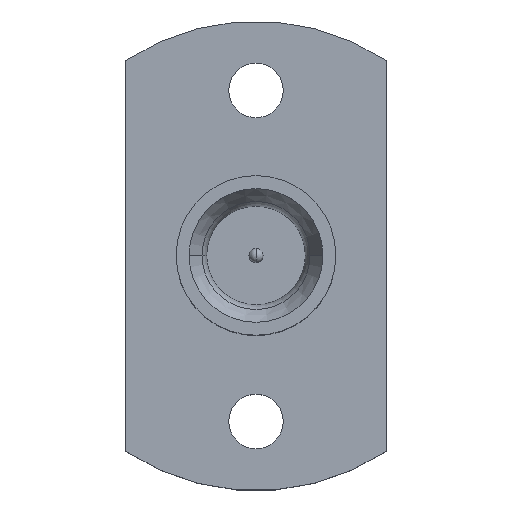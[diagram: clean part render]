
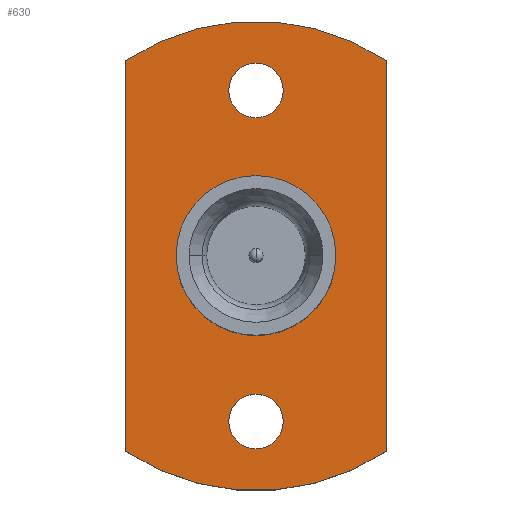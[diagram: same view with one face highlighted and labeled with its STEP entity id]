
A CAD part, top view. The second image highlights one B-rep face of the part: STEP entity #630.
In plain terms, the highlighted planar face has unit normal (0, 0, 1).
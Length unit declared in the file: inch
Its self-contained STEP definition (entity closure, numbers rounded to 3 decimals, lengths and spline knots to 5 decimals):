
#4 = CARTESIAN_POINT ( 'NONE',  ( 0.068, 0., -0.238 ) ) ;
#21 = EDGE_CURVE ( 'NONE', #1157, #350, #135, .T. ) ;
#34 = ORIENTED_EDGE ( 'NONE', *, *, #1499, .T. ) ;
#47 = FACE_BOUND ( 'NONE', #1756, .T. ) ;
#58 = CARTESIAN_POINT ( 'NONE',  ( 0., 0.141, -0.238 ) ) ;
#98 = AXIS2_PLACEMENT_3D ( 'NONE', #1352, #479, #1645 ) ;
#126 = CARTESIAN_POINT ( 'NONE',  ( -0.111, 0.16637, -0.238 ) ) ;
#135 = CIRCLE ( 'NONE', #142, 0.02325 ) ;
#142 = AXIS2_PLACEMENT_3D ( 'NONE', #342, #1360, #488 ) ;
#147 = EDGE_CURVE ( 'NONE', #1280, #564, #1543, .T. ) ;
#181 = VERTEX_POINT ( 'NONE', #198 ) ;
#198 = CARTESIAN_POINT ( 'NONE',  ( -0.068, 0., -0.238 ) ) ;
#203 = VECTOR ( 'NONE', #1866, 39.37008 ) ;
#208 = DIRECTION ( 'NONE',  ( -1., 0., 0. ) ) ;
#267 = CARTESIAN_POINT ( 'NONE',  ( 0., -0.141, -0.238 ) ) ;
#268 = PLANE ( 'NONE',  #1169 ) ;
#275 = DIRECTION ( 'NONE',  ( 0., 0., -1. ) ) ;
#278 = CARTESIAN_POINT ( 'NONE',  ( 0., 0., -0.238 ) ) ;
#335 = VERTEX_POINT ( 'NONE', #960 ) ;
#340 = ORIENTED_EDGE ( 'NONE', *, *, #147, .T. ) ;
#342 = CARTESIAN_POINT ( 'NONE',  ( 0., -0.141, -0.238 ) ) ;
#345 = CARTESIAN_POINT ( 'NONE',  ( 0.111, 0.16637, -0.238 ) ) ;
#350 = VERTEX_POINT ( 'NONE', #809 ) ;
#361 = CIRCLE ( 'NONE', #534, 0.068 ) ;
#377 = LINE ( 'NONE', #1723, #1881 ) ;
#382 = ORIENTED_EDGE ( 'NONE', *, *, #1780, .T. ) ;
#413 = DIRECTION ( 'NONE',  ( -1., 0., 0. ) ) ;
#419 = AXIS2_PLACEMENT_3D ( 'NONE', #1464, #1165, #1172 ) ;
#430 = DIRECTION ( 'NONE',  ( -1., 0., 0. ) ) ;
#457 = AXIS2_PLACEMENT_3D ( 'NONE', #790, #1795, #933 ) ;
#479 = DIRECTION ( 'NONE',  ( 0., 0., -1. ) ) ;
#488 = DIRECTION ( 'NONE',  ( -1., 0., 0. ) ) ;
#534 = AXIS2_PLACEMENT_3D ( 'NONE', #870, #1875, #1006 ) ;
#546 = EDGE_CURVE ( 'NONE', #1612, #1857, #1272, .T. ) ;
#552 = ORIENTED_EDGE ( 'NONE', *, *, #546, .F. ) ;
#564 = VERTEX_POINT ( 'NONE', #688 ) ;
#630 = ADVANCED_FACE ( 'NONE', ( #829, #47, #1604, #1564 ), #268, .F. ) ;
#663 = CIRCLE ( 'NONE', #457, 0.2 ) ;
#669 = CARTESIAN_POINT ( 'NONE',  ( -0.111, -0.16637, -0.238 ) ) ;
#688 = CARTESIAN_POINT ( 'NONE',  ( -0.02325, 0.141, -0.238 ) ) ;
#749 = VERTEX_POINT ( 'NONE', #4 ) ;
#790 = CARTESIAN_POINT ( 'NONE',  ( 0., 0., -0.238 ) ) ;
#804 = CARTESIAN_POINT ( 'NONE',  ( 0.02325, -0.141, -0.238 ) ) ;
#809 = CARTESIAN_POINT ( 'NONE',  ( -0.02325, -0.141, -0.238 ) ) ;
#821 = AXIS2_PLACEMENT_3D ( 'NONE', #278, #1300, #430 ) ;
#829 = FACE_BOUND ( 'NONE', #1349, .T. ) ;
#858 = DIRECTION ( 'NONE',  ( 0., -1., 0. ) ) ;
#870 = CARTESIAN_POINT ( 'NONE',  ( 0., 0., -0.238 ) ) ;
#911 = EDGE_CURVE ( 'NONE', #335, #979, #663, .T. ) ;
#933 = DIRECTION ( 'NONE',  ( -1., 0., 0. ) ) ;
#960 = CARTESIAN_POINT ( 'NONE',  ( -0.111, 0.16637, -0.238 ) ) ;
#979 = VERTEX_POINT ( 'NONE', #345 ) ;
#1006 = DIRECTION ( 'NONE',  ( -1., 0., 0. ) ) ;
#1007 = CARTESIAN_POINT ( 'NONE',  ( 0.111, -0.16637, -0.238 ) ) ;
#1045 = ORIENTED_EDGE ( 'NONE', *, *, #1685, .T. ) ;
#1090 = DIRECTION ( 'NONE',  ( 0., 0., -1. ) ) ;
#1106 = ORIENTED_EDGE ( 'NONE', *, *, #1625, .F. ) ;
#1148 = CARTESIAN_POINT ( 'NONE',  ( 0., 0., -0.238 ) ) ;
#1157 = VERTEX_POINT ( 'NONE', #804 ) ;
#1165 = DIRECTION ( 'NONE',  ( 0., 0., -1. ) ) ;
#1169 = AXIS2_PLACEMENT_3D ( 'NONE', #1148, #275, #1296 ) ;
#1172 = DIRECTION ( 'NONE',  ( -1., 0., 0. ) ) ;
#1195 = ORIENTED_EDGE ( 'NONE', *, *, #911, .F. ) ;
#1198 = EDGE_CURVE ( 'NONE', #1857, #335, #1319, .T. ) ;
#1272 = CIRCLE ( 'NONE', #419, 0.2 ) ;
#1280 = VERTEX_POINT ( 'NONE', #1609 ) ;
#1285 = DIRECTION ( 'NONE',  ( 0., 0., -1. ) ) ;
#1296 = DIRECTION ( 'NONE',  ( -1., 0., 0. ) ) ;
#1300 = DIRECTION ( 'NONE',  ( 0., 0., -1. ) ) ;
#1319 = LINE ( 'NONE', #126, #203 ) ;
#1349 = EDGE_LOOP ( 'NONE', ( #34, #1628 ) ) ;
#1352 = CARTESIAN_POINT ( 'NONE',  ( 0., 0.141, -0.238 ) ) ;
#1360 = DIRECTION ( 'NONE',  ( 0., 0., -1. ) ) ;
#1464 = CARTESIAN_POINT ( 'NONE',  ( 0., 0., -0.238 ) ) ;
#1483 = CIRCLE ( 'NONE', #821, 0.068 ) ;
#1499 = EDGE_CURVE ( 'NONE', #350, #1157, #1769, .T. ) ;
#1509 = ORIENTED_EDGE ( 'NONE', *, *, #1709, .T. ) ;
#1543 = CIRCLE ( 'NONE', #98, 0.02325 ) ;
#1547 = AXIS2_PLACEMENT_3D ( 'NONE', #267, #1285, #413 ) ;
#1564 = FACE_OUTER_BOUND ( 'NONE', #1611, .T. ) ;
#1604 = FACE_BOUND ( 'NONE', #1673, .T. ) ;
#1609 = CARTESIAN_POINT ( 'NONE',  ( 0.02325, 0.141, -0.238 ) ) ;
#1611 = EDGE_LOOP ( 'NONE', ( #552, #1106, #1195, #1682 ) ) ;
#1612 = VERTEX_POINT ( 'NONE', #1007 ) ;
#1625 = EDGE_CURVE ( 'NONE', #979, #1612, #377, .T. ) ;
#1628 = ORIENTED_EDGE ( 'NONE', *, *, #21, .T. ) ;
#1645 = DIRECTION ( 'NONE',  ( -1., 0., 0. ) ) ;
#1673 = EDGE_LOOP ( 'NONE', ( #1509, #1045 ) ) ;
#1682 = ORIENTED_EDGE ( 'NONE', *, *, #1198, .F. ) ;
#1685 = EDGE_CURVE ( 'NONE', #181, #749, #361, .T. ) ;
#1709 = EDGE_CURVE ( 'NONE', #749, #181, #1483, .T. ) ;
#1723 = CARTESIAN_POINT ( 'NONE',  ( 0.111, 0.16637, -0.238 ) ) ;
#1756 = EDGE_LOOP ( 'NONE', ( #382, #340 ) ) ;
#1769 = CIRCLE ( 'NONE', #1547, 0.02325 ) ;
#1780 = EDGE_CURVE ( 'NONE', #564, #1280, #1791, .T. ) ;
#1791 = CIRCLE ( 'NONE', #1892, 0.02325 ) ;
#1795 = DIRECTION ( 'NONE',  ( 0., 0., -1. ) ) ;
#1857 = VERTEX_POINT ( 'NONE', #669 ) ;
#1866 = DIRECTION ( 'NONE',  ( 0., 1., 0. ) ) ;
#1875 = DIRECTION ( 'NONE',  ( 0., 0., -1. ) ) ;
#1881 = VECTOR ( 'NONE', #858, 39.37008 ) ;
#1892 = AXIS2_PLACEMENT_3D ( 'NONE', #58, #1090, #208 ) ;
